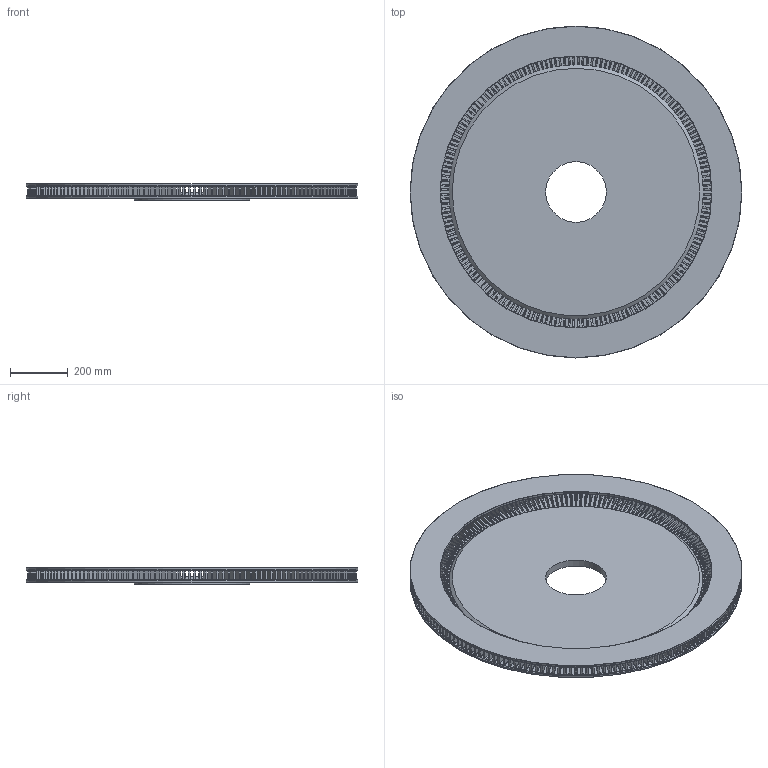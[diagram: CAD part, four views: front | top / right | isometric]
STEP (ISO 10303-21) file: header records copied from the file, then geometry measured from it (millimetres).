
FILE_DESCRIPTION (( 'STEP AP214' ), '1' );
FILE_NAME ('2-4-45.STEP', '2017-12-01T15:04:03', ( '' ), ( '' ), 'SwSTEP 2.0', 'SolidWorks 2017', '' );
FILE_SCHEMA (( 'AUTOMOTIVE_DESIGN' ));
Length unit declared in the file: inch
Products named in the file (1): 2-4-45
Bounding box: 1147.76 x 1147.76 x 57.15 mm (x, y, z)
Volume: 21580489.5 mm3; surface area: 3780435.3 mm2
Topology: 1 solids, 1 shells, 1998 faces, 5431 edges, 3259 vertices
Faces by surface type: cylinder 1085, plane 366, torus 360, cone 187
Full cylindrical faces by diameter (mm): 209.55 x1, 400.05 x1, 938.721 x1, 1147.763 x2
Entity records: 78158 total; most frequent: CARTESIAN_POINT 30113, ORIENTED_EDGE 10834, DIRECTION 9072, EDGE_CURVE 5417, AXIS2_PLACEMENT_3D 3456, VERTEX_POINT 3257, EDGE_LOOP 2196, LINE 2160
